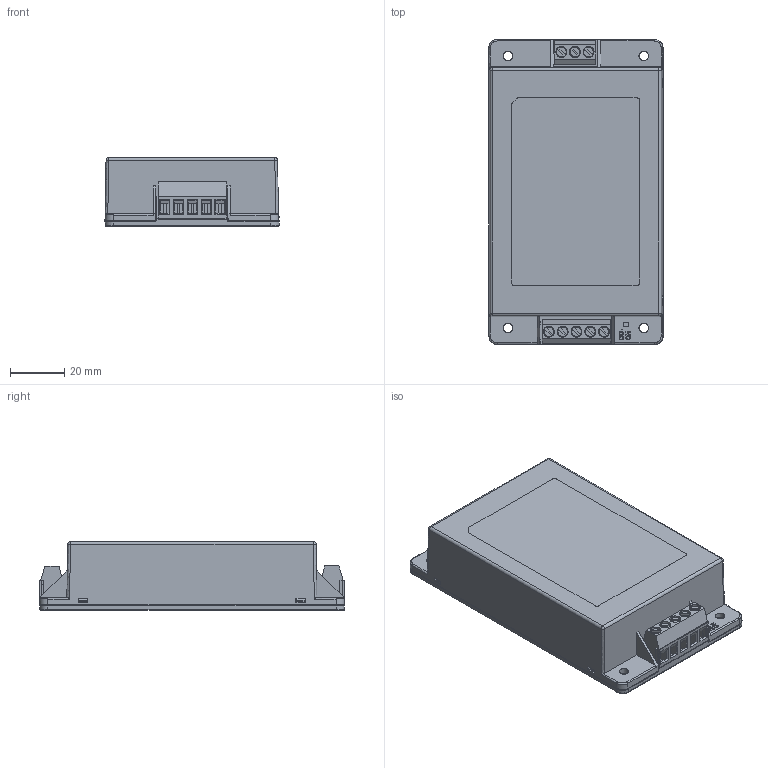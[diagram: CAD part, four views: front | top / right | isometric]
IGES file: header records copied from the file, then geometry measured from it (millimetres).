
Start section: SolidWorks IGES file using analytic representation for surfaces
Global section: file name: C:\Users\ksmith.XPNA\Desktop\DTE40\DTE40.IGS; native system: SolidWorks 2016; preprocessor: SolidWorks 2016; author: ksmith; date: 170109.101123; units: inch
Bounding box: 63.96 x 112.06 x 25.28 mm (x, y, z)
Surface area: 44045.3 mm2 (no closed solid volume)
Topology: 0 solids, 0 shells, 658 faces, 6515 edges, 6511 vertices
Faces by surface type: bspline 496, revolution 162
